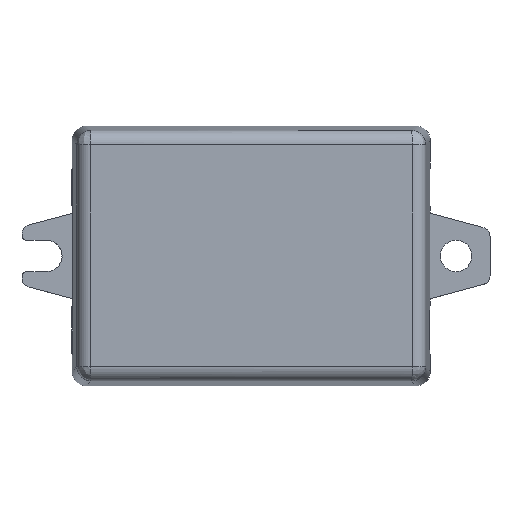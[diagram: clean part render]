
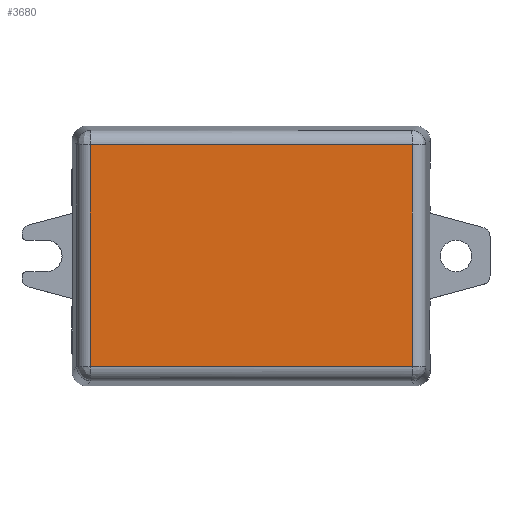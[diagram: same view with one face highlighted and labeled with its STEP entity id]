
A CAD part, top view. The second image highlights one B-rep face of the part: STEP entity #3680.
In plain terms, the highlighted planar face has unit normal (0, 0, 1).
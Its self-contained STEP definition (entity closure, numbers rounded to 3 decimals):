
#7=DIRECTION('',(0.,1.,0.));
#8=VECTOR('',#7,23.229);
#9=CARTESIAN_POINT('',(62.105,230.391,18.2));
#10=LINE('',#9,#8);
#1358=DIRECTION('',(1.,0.,0.));
#1359=VECTOR('',#1358,33.725);
#1360=CARTESIAN_POINT('',(28.381,230.391,18.2));
#1361=LINE('',#1360,#1359);
#1362=DIRECTION('',(0.,1.,0.));
#1363=VECTOR('',#1362,23.229);
#1364=CARTESIAN_POINT('',(28.381,230.391,18.2));
#1365=LINE('',#1364,#1363);
#1366=DIRECTION('',(-1.,0.,0.));
#1367=VECTOR('',#1366,33.725);
#1368=CARTESIAN_POINT('',(62.105,253.619,18.2));
#1369=LINE('',#1368,#1367);
#1484=CARTESIAN_POINT('',(28.381,230.391,18.2));
#1485=CARTESIAN_POINT('',(62.105,230.391,18.2));
#1486=VERTEX_POINT('',#1484);
#1487=VERTEX_POINT('',#1485);
#1502=CARTESIAN_POINT('',(62.105,253.619,18.2));
#1503=CARTESIAN_POINT('',(28.381,253.619,18.2));
#1504=VERTEX_POINT('',#1502);
#1505=VERTEX_POINT('',#1503);
#3667=CARTESIAN_POINT('',(28.381,228.405,18.2));
#3668=DIRECTION('',(0.,0.,1.));
#3669=DIRECTION('',(1.,0.,0.));
#3670=AXIS2_PLACEMENT_3D('',#3667,#3668,#3669);
#3671=PLANE('',#3670);
#3673=ORIENTED_EDGE('',*,*,#3672,.F.);
#3675=ORIENTED_EDGE('',*,*,#3674,.T.);
#3676=ORIENTED_EDGE('',*,*,#3660,.F.);
#3677=ORIENTED_EDGE('',*,*,#1799,.F.);
#3678=EDGE_LOOP('',(#3673,#3675,#3676,#3677));
#3679=FACE_OUTER_BOUND('',#3678,.F.);
#3680=ADVANCED_FACE('',(#3679),#3671,.T.);
#1799=EDGE_CURVE('',#1487,#1504,#10,.T.);
#3660=EDGE_CURVE('',#1504,#1505,#1369,.T.);
#3672=EDGE_CURVE('',#1486,#1487,#1361,.T.);
#3674=EDGE_CURVE('',#1486,#1505,#1365,.T.);
